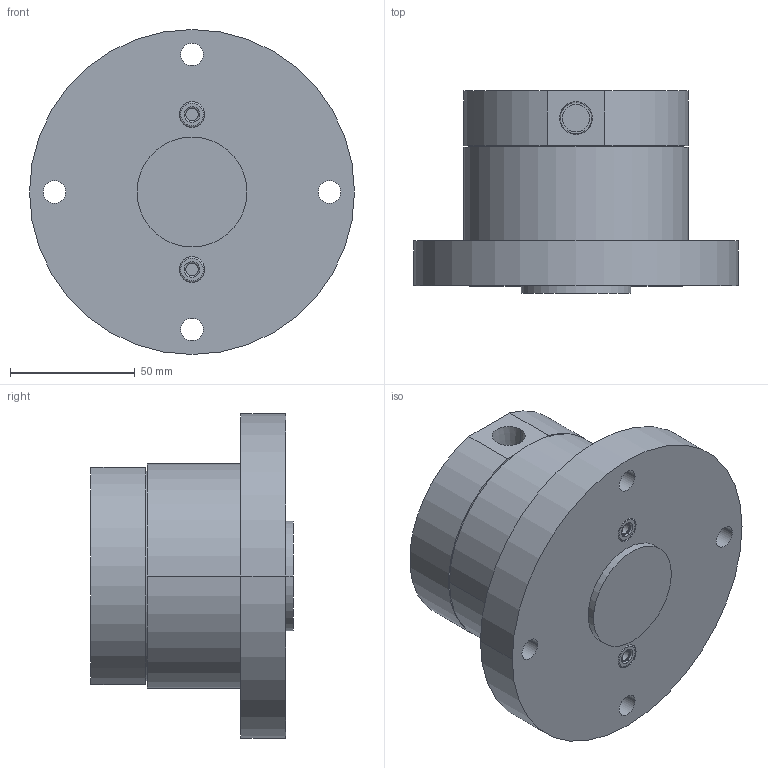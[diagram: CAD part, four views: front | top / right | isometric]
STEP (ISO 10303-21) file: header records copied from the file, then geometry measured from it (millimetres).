
FILE_DESCRIPTION((' '),'2;1');
FILE_NAME( 'PTMC2.x_t.stp', '2025-01-06T11:28:00', (' '), ('--- Datakit www.datakit.com---'), ' Datakit CrossCadWare V2024.1 Dec 21 2023', 'Mastercam 2025', ' ');
FILE_SCHEMA(('AUTOMOTIVE_DESIGN { 1 0 10303 214 1 1 1 1 }'));
Length unit declared in the file: millimetre
Products named in the file (1): PTMC2
Bounding box: 130 x 81 x 130 mm (x, y, z)
Volume: 609165.5 mm3; surface area: 69414.5 mm2
Topology: 2 solids, 4 shells, 106 faces, 248 edges, 170 vertices
Faces by surface type: cylinder 56, plane 30, torus 16, cone 4
Entity records: 3284 total; most frequent: DIRECTION 644, CARTESIAN_POINT 525, ORIENTED_EDGE 496, AXIS2_PLACEMENT_3D 289, EDGE_CURVE 248, CIRCLE 182, VERTEX_POINT 170, EDGE_LOOP 138
